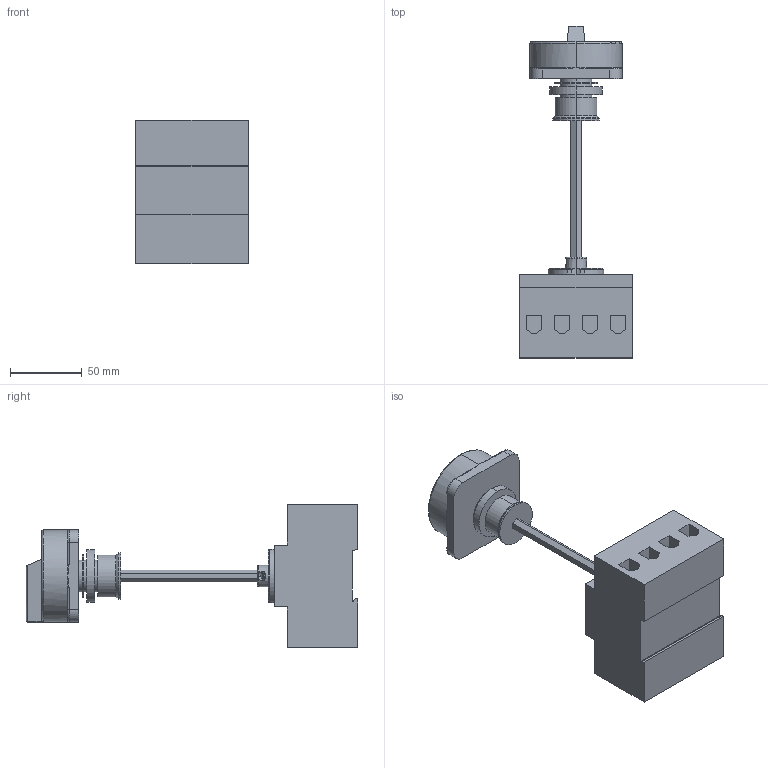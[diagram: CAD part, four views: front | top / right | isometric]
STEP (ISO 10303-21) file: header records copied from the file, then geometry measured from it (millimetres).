
FILE_DESCRIPTION (( 'STEP AP203' ), '1' );
FILE_NAME ('LTS85_100_125 VZVHN4 A4.STEP', '2014-03-20T10:34:48', ( '' ), ( '' ), 'SwSTEP 2.0', 'SolidWorks 2014', '' );
FILE_SCHEMA (( 'CONFIG_CONTROL_DESIGN' ));
Length unit declared in the file: millimetre
Products named in the file (5): LTS125 VZV A4 Schaltkörper; 8184; Achse TK-LT_100_300; TK2Z H4; LTS85_100_125 VZVHN4 A4
Assembly tree (4 placements, depth 2):
  LTS85_100_125 VZVHN4 A4
    LTS125 VZV A4 Schaltkörper
    8184
    Achse TK-LT_100_300
    TK2Z H4
Bounding box: 78 x 230.7 x 100 mm (x, y, z)
Volume: 465093 mm3; surface area: 79004.7 mm2
Topology: 4 solids, 4 shells, 271 faces, 687 edges, 433 vertices
Faces by surface type: plane 138, cylinder 77, cone 25, bspline 18, torus 13
Entity records: 9271 total; most frequent: CARTESIAN_POINT 2308, ORIENTED_EDGE 1354, DIRECTION 1336, EDGE_CURVE 677, AXIS2_PLACEMENT_3D 484, VERTEX_POINT 433, LINE 368, VECTOR 368
